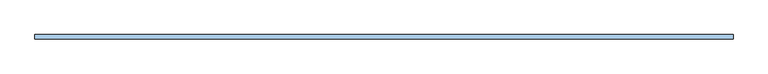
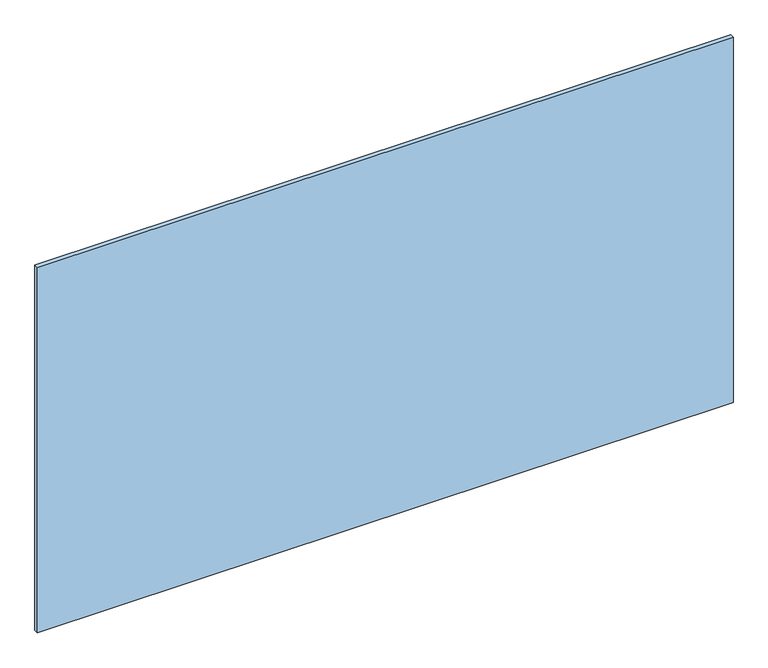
"""IFC4 building model written with IfcOpenShell, lengths in millimetres: window geometry, espejo biselado sin marco : ESP12espejo biselado 180 x 100."""

from ifc_helpers import new_model, si_unit, origin, origin_with_axes, place, context, project, spatial, polyline, outline, extrude, source, transform, mapped, element, save


def window_c6335699(model_context):
    return source(origin(), model_context, "Body", "SweptSolid", [
        extrude(outline(polyline([(-900.0, 79.0), (-900.0, 90.0), (900.0, 90.0), (900.0, 79.0), (-900.0, 79.0)])), origin_with_axes(), (0.0, 0.0, 1.0), 1000.0),
    ])


if __name__ == "__main__":
    model = new_model("IFC4")
    model_context = context("Model", 3, world=origin())
    ifc_project = project(units=[si_unit("LENGTHUNIT", "METRE", prefix="MILLI")], contexts=[model_context])
    site = spatial("IfcSite", under=ifc_project)
    building = spatial("IfcBuilding", under=site)
    placement = place(None, origin())
    window_shape = window_c6335699(model_context)
    element("IfcWindow", 1, ObjectType="espejo biselado sin marco : ESP12espejo biselado 180 x 100", at=placement, inside=building, context=model_context, shape_type="MappedRepresentation", body=[
        mapped(window_shape, transform((0.0, 0.0, 0.0), x_axis=(1.0, 0.0, 0.0), y_axis=(0.0, 1.0, 0.0), z_axis=(0.0, 0.0, 1.0))),
    ])
    save(model, "model.ifc")
